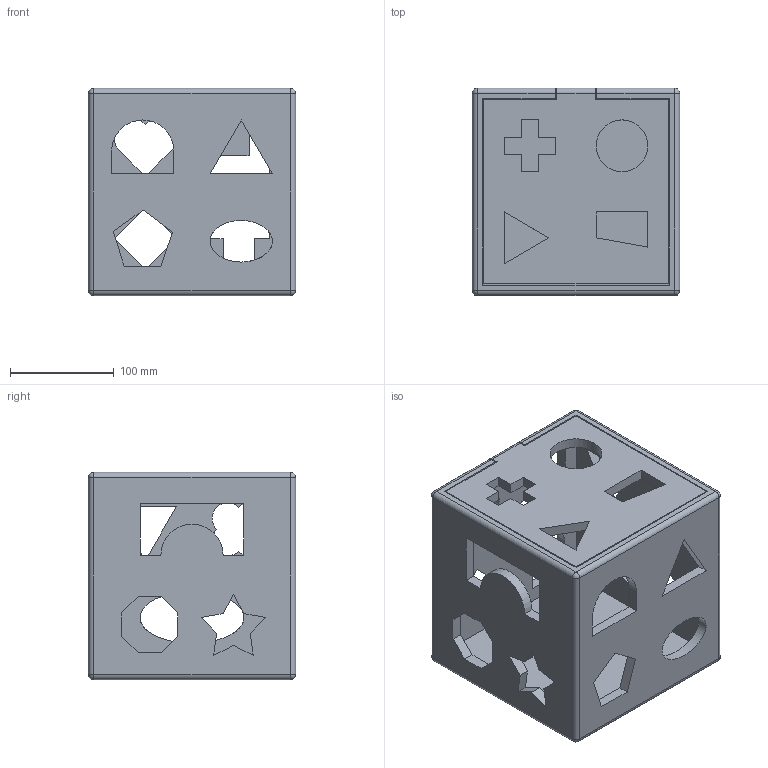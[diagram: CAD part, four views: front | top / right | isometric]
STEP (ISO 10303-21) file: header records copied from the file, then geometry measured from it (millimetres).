
FILE_DESCRIPTION(/* description */ (''),/* implementation_level */ '2;1');
FILE_NAME(/* name */ 'Juguete_nios_Arriba.stp',/* time_stamp */ '2026-06-15T21:37:52+02:00',/* author */ ('algob'),/* organization */ (''),/* preprocessor_version */ 'ST-DEVELOPER v19.2',/* originating_system */ 'Autodesk Inventor 2024',/* authorisation */ '');
FILE_SCHEMA (('AUTOMOTIVE_DESIGN { 1 0 10303 214 3 1 1 }'));
Length unit declared in the file: millimetre
Products named in the file (1): Juguete_niños_Arriba
Bounding box: 200 x 200 x 200 mm (x, y, z)
Volume: 1765927.5 mm3; surface area: 401326.8 mm2
Topology: 2 solids, 2 shells, 131 faces, 357 edges, 230 vertices
Faces by surface type: plane 97, cylinder 24, sphere 8, bspline 2
Full cylindrical faces by diameter (mm): 50 x1
Entity records: 4211 total; most frequent: CARTESIAN_POINT 753, ORIENTED_EDGE 714, DIRECTION 669, EDGE_CURVE 357, LINE 305, VECTOR 305, VERTEX_POINT 230, AXIS2_PLACEMENT_3D 182
